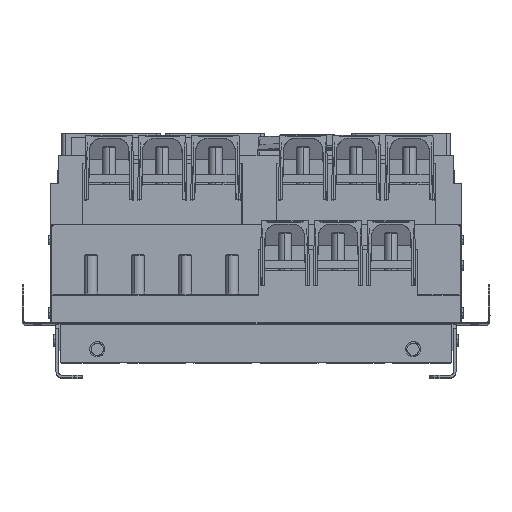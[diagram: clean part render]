
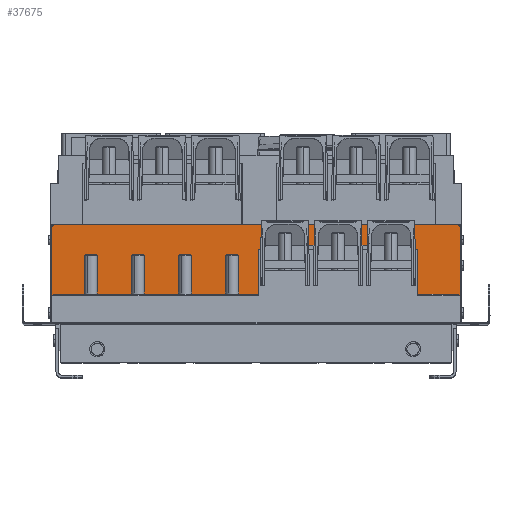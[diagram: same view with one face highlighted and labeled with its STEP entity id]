
A CAD part, top view. The second image highlights one B-rep face of the part: STEP entity #37675.
In plain terms, the highlighted planar face has unit normal (0, 0, 1).
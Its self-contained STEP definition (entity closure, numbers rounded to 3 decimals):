
#209 = LINE ( 'NONE', #27917, #79007 ) ;
#380 = EDGE_CURVE ( 'NONE', #84679, #68823, #59670, .T. ) ;
#1654 = EDGE_CURVE ( 'NONE', #62737, #5758, #49628, .T. ) ;
#2603 = VECTOR ( 'NONE', #5963, 1000. ) ;
#2796 = VECTOR ( 'NONE', #85883, 1000. ) ;
#3516 = EDGE_CURVE ( 'NONE', #53019, #74386, #15903, .T. ) ;
#3566 = VERTEX_POINT ( 'NONE', #19001 ) ;
#5713 = CARTESIAN_POINT ( 'NONE',  ( -243., 115., 179. ) ) ;
#5758 = VERTEX_POINT ( 'NONE', #15780 ) ;
#5963 = DIRECTION ( 'NONE',  ( 1., 0., 0. ) ) ;
#7334 = VERTEX_POINT ( 'NONE', #83737 ) ;
#7646 = CARTESIAN_POINT ( 'NONE',  ( 5.803, 89., 179. ) ) ;
#8097 = DIRECTION ( 'NONE',  ( -0.017, -1., 0. ) ) ;
#8969 = EDGE_CURVE ( 'NONE', #5758, #41134, #44561, .T. ) ;
#9836 = VECTOR ( 'NONE', #37693, 1000. ) ;
#10369 = CARTESIAN_POINT ( 'NONE',  ( 5.894, 94.2, 179. ) ) ;
#11380 = DIRECTION ( 'NONE',  ( 1., 0., 0. ) ) ;
#13829 = DIRECTION ( 'NONE',  ( 0., 1., 0. ) ) ;
#15095 = CARTESIAN_POINT ( 'NONE',  ( -247., 33., 179. ) ) ;
#15780 = CARTESIAN_POINT ( 'NONE',  ( 245., 35., 179. ) ) ;
#15903 = LINE ( 'NONE', #44531, #80877 ) ;
#16593 = LINE ( 'NONE', #82328, #34394 ) ;
#17116 = ORIENTED_EDGE ( 'NONE', *, *, #43173, .T. ) ;
#17472 = FACE_OUTER_BOUND ( 'NONE', #25571, .T. ) ;
#19001 = CARTESIAN_POINT ( 'NONE',  ( 192.514, 89., 179. ) ) ;
#19542 = CARTESIAN_POINT ( 'NONE',  ( 195.511, 89., 179. ) ) ;
#19845 = EDGE_CURVE ( 'NONE', #3566, #90198, #38867, .T. ) ;
#20761 = ORIENTED_EDGE ( 'NONE', *, *, #52367, .T. ) ;
#21858 = VECTOR ( 'NONE', #71093, 1000. ) ;
#21949 = VECTOR ( 'NONE', #91328, 1000. ) ;
#22652 = ORIENTED_EDGE ( 'NONE', *, *, #91235, .T. ) ;
#23682 = CIRCLE ( 'NONE', #58244, 4. ) ;
#23850 = EDGE_CURVE ( 'NONE', #68823, #51618, #23682, .T. ) ;
#23945 = EDGE_CURVE ( 'NONE', #63861, #7334, #85164, .T. ) ;
#24315 = CARTESIAN_POINT ( 'NONE',  ( -245., 35., 179. ) ) ;
#25571 = EDGE_LOOP ( 'NONE', ( #77730, #73279, #22652, #33350, #17116, #25646, #34447, #39351, #70708, #81019, #84225, #64638, #43665, #20761, #85705, #48221 ) ) ;
#25646 = ORIENTED_EDGE ( 'NONE', *, *, #1654, .T. ) ;
#25794 = CARTESIAN_POINT ( 'NONE',  ( 247., 115., 179. ) ) ;
#25853 = CARTESIAN_POINT ( 'NONE',  ( 2.806, 89., 179. ) ) ;
#27917 = CARTESIAN_POINT ( 'NONE',  ( 2.806, 35., 179. ) ) ;
#28585 = LINE ( 'NONE', #71314, #2796 ) ;
#28749 = CARTESIAN_POINT ( 'NONE',  ( 243., 115., 179. ) ) ;
#29213 = DIRECTION ( 'NONE',  ( 1., 0., 0. ) ) ;
#30381 = VECTOR ( 'NONE', #80282, 1000. ) ;
#32368 = DIRECTION ( 'NONE',  ( 0., 1., 0. ) ) ;
#33350 = ORIENTED_EDGE ( 'NONE', *, *, #19845, .T. ) ;
#34039 = LINE ( 'NONE', #62674, #21949 ) ;
#34394 = VECTOR ( 'NONE', #88448, 1000. ) ;
#34447 = ORIENTED_EDGE ( 'NONE', *, *, #8969, .T. ) ;
#37675 = ADVANCED_FACE ( 'NONE', ( #17472 ), #44724, .T. ) ;
#37693 = DIRECTION ( 'NONE',  ( 1., 0., 0. ) ) ;
#38147 = LINE ( 'NONE', #59299, #9836 ) ;
#38865 = CARTESIAN_POINT ( 'NONE',  ( 243., 119., 179. ) ) ;
#38867 = LINE ( 'NONE', #55578, #21858 ) ;
#39351 = ORIENTED_EDGE ( 'NONE', *, *, #47006, .F. ) ;
#40887 = VECTOR ( 'NONE', #82669, 1000. ) ;
#41134 = VERTEX_POINT ( 'NONE', #53949 ) ;
#43173 = EDGE_CURVE ( 'NONE', #90198, #62737, #85161, .T. ) ;
#43264 = DIRECTION ( 'NONE',  ( 0., 0., -1. ) ) ;
#43665 = ORIENTED_EDGE ( 'NONE', *, *, #57613, .T. ) ;
#44531 = CARTESIAN_POINT ( 'NONE',  ( 2.806, 89., 179. ) ) ;
#44561 = LINE ( 'NONE', #51626, #30381 ) ;
#44724 = PLANE ( 'NONE',  #77693 ) ;
#45001 = DIRECTION ( 'NONE',  ( 1., 0., 0. ) ) ;
#45751 = CARTESIAN_POINT ( 'NONE',  ( 195.511, 35., 179. ) ) ;
#46097 = CARTESIAN_POINT ( 'NONE',  ( -247., 31., 179. ) ) ;
#47006 = EDGE_CURVE ( 'NONE', #7334, #41134, #90600, .T. ) ;
#48221 = ORIENTED_EDGE ( 'NONE', *, *, #3516, .T. ) ;
#49628 = LINE ( 'NONE', #70335, #2603 ) ;
#50857 = CARTESIAN_POINT ( 'NONE',  ( -245., 35., 179. ) ) ;
#51154 = VECTOR ( 'NONE', #59591, 1000. ) ;
#51618 = VERTEX_POINT ( 'NONE', #56407 ) ;
#51626 = CARTESIAN_POINT ( 'NONE',  ( 245., 35., 179. ) ) ;
#52367 = EDGE_CURVE ( 'NONE', #57051, #86048, #34039, .T. ) ;
#53019 = VERTEX_POINT ( 'NONE', #25853 ) ;
#53488 = CARTESIAN_POINT ( 'NONE',  ( -247., 1., 179. ) ) ;
#53879 = LINE ( 'NONE', #24315, #51154 ) ;
#53949 = CARTESIAN_POINT ( 'NONE',  ( 247., 33., 179. ) ) ;
#55578 = CARTESIAN_POINT ( 'NONE',  ( 190.479, 89., 179. ) ) ;
#56407 = CARTESIAN_POINT ( 'NONE',  ( -243., 119., 179. ) ) ;
#57051 = VERTEX_POINT ( 'NONE', #50857 ) ;
#57613 = EDGE_CURVE ( 'NONE', #84679, #57051, #53879, .T. ) ;
#57909 = LINE ( 'NONE', #58387, #60595 ) ;
#58244 = AXIS2_PLACEMENT_3D ( 'NONE', #5713, #63044, #11380 ) ;
#58387 = CARTESIAN_POINT ( 'NONE',  ( 5.351, 63.129, 179. ) ) ;
#59299 = CARTESIAN_POINT ( 'NONE',  ( -44.533, 94.2, 179. ) ) ;
#59320 = DIRECTION ( 'NONE',  ( 0., 0., 1. ) ) ;
#59591 = DIRECTION ( 'NONE',  ( 0.707, 0.707, 0. ) ) ;
#59670 = LINE ( 'NONE', #53488, #65447 ) ;
#60595 = VECTOR ( 'NONE', #8097, 1000. ) ;
#62001 = EDGE_CURVE ( 'NONE', #84907, #74386, #57909, .T. ) ;
#62674 = CARTESIAN_POINT ( 'NONE',  ( -247., 35., 179. ) ) ;
#62737 = VERTEX_POINT ( 'NONE', #45751 ) ;
#63044 = DIRECTION ( 'NONE',  ( 0., 0., -1. ) ) ;
#63861 = VERTEX_POINT ( 'NONE', #38865 ) ;
#64029 = CARTESIAN_POINT ( 'NONE',  ( 195.511, 89., 179. ) ) ;
#64094 = EDGE_CURVE ( 'NONE', #84907, #92849, #38147, .T. ) ;
#64638 = ORIENTED_EDGE ( 'NONE', *, *, #380, .F. ) ;
#65447 = VECTOR ( 'NONE', #32368, 1000. ) ;
#68823 = VERTEX_POINT ( 'NONE', #70645 ) ;
#68942 = EDGE_CURVE ( 'NONE', #51618, #63861, #16593, .T. ) ;
#70335 = CARTESIAN_POINT ( 'NONE',  ( -247., 35., 179. ) ) ;
#70645 = CARTESIAN_POINT ( 'NONE',  ( -247., 115., 179. ) ) ;
#70708 = ORIENTED_EDGE ( 'NONE', *, *, #23945, .F. ) ;
#71093 = DIRECTION ( 'NONE',  ( 1., 0., 0. ) ) ;
#71314 = CARTESIAN_POINT ( 'NONE',  ( 192.965, 63.129, 179. ) ) ;
#73279 = ORIENTED_EDGE ( 'NONE', *, *, #64094, .T. ) ;
#73358 = CARTESIAN_POINT ( 'NONE',  ( 192.423, 94.2, 179. ) ) ;
#73430 = DIRECTION ( 'NONE',  ( 1., 0., 0. ) ) ;
#74386 = VERTEX_POINT ( 'NONE', #7646 ) ;
#77693 = AXIS2_PLACEMENT_3D ( 'NONE', #46097, #59320, #73430 ) ;
#77730 = ORIENTED_EDGE ( 'NONE', *, *, #62001, .F. ) ;
#79007 = VECTOR ( 'NONE', #13829, 1000. ) ;
#80282 = DIRECTION ( 'NONE',  ( 0.707, -0.707, 0. ) ) ;
#80877 = VECTOR ( 'NONE', #45001, 1000. ) ;
#81019 = ORIENTED_EDGE ( 'NONE', *, *, #68942, .F. ) ;
#82328 = CARTESIAN_POINT ( 'NONE',  ( -243., 119., 179. ) ) ;
#82567 = VECTOR ( 'NONE', #84692, 1000. ) ;
#82669 = DIRECTION ( 'NONE',  ( 0., -1., 0. ) ) ;
#83737 = CARTESIAN_POINT ( 'NONE',  ( 247., 115., 179. ) ) ;
#84225 = ORIENTED_EDGE ( 'NONE', *, *, #23850, .F. ) ;
#84679 = VERTEX_POINT ( 'NONE', #15095 ) ;
#84692 = DIRECTION ( 'NONE',  ( 0., -1., 0. ) ) ;
#84907 = VERTEX_POINT ( 'NONE', #10369 ) ;
#85161 = LINE ( 'NONE', #64029, #82567 ) ;
#85164 = CIRCLE ( 'NONE', #92656, 4. ) ;
#85705 = ORIENTED_EDGE ( 'NONE', *, *, #86825, .T. ) ;
#85883 = DIRECTION ( 'NONE',  ( 0.017, -1., 0. ) ) ;
#86048 = VERTEX_POINT ( 'NONE', #88942 ) ;
#86825 = EDGE_CURVE ( 'NONE', #86048, #53019, #209, .T. ) ;
#88448 = DIRECTION ( 'NONE',  ( 1., 0., 0. ) ) ;
#88942 = CARTESIAN_POINT ( 'NONE',  ( 2.806, 35., 179. ) ) ;
#90198 = VERTEX_POINT ( 'NONE', #19542 ) ;
#90600 = LINE ( 'NONE', #25794, #40887 ) ;
#91235 = EDGE_CURVE ( 'NONE', #92849, #3566, #28585, .T. ) ;
#91328 = DIRECTION ( 'NONE',  ( 1., 0., 0. ) ) ;
#92656 = AXIS2_PLACEMENT_3D ( 'NONE', #28749, #43264, #29213 ) ;
#92849 = VERTEX_POINT ( 'NONE', #73358 ) ;
